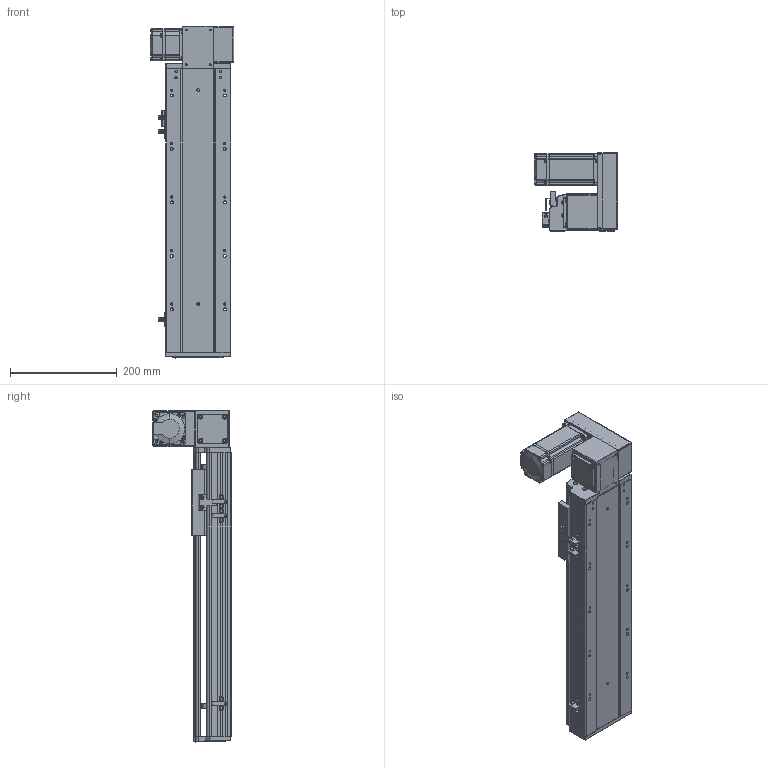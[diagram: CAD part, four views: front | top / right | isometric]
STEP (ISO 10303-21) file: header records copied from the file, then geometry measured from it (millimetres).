
FILE_DESCRIPTION (( 'STEP AP203' ), '1' );
FILE_NAME ('RY120-T-300-UR.SLDASM_300.step', '2021-03-01T05:55:13', ( '盈信电脑' ), ( '东莞市道滘镇水果街19号' ), 'SwSTEP 2.0', 'SolidWorks 2012', '' );
FILE_SCHEMA (( 'CONFIG_CONTROL_DESIGN' ));
Length unit declared in the file: millimetre
Products named in the file (17): RY120-T肮祭湍揤踡輸2; RY120-T肮祭湍揤踡輸1; RY120-T翋肮祭盓傅釱; RY120外置感应片(140共用）; RY120肮祭湍臏賑輸; 覜茼ん672; RY120綴裔啣; RY120-T-300-UR倰第菁釱; RY120-T-300-UR倰第奻裔啣_300; RY120-T-300-UR.SLDASM_300; RY120-T主同步轮轴承压盖; RY120-T萇儂欶; RY120-T翋肮祭謫裔啣; 滅袉蝶18-10; 15; RY120-T蹟翐M4; RY120-T萇儂假蚾啣
Assembly tree (22 placements, depth 2):
  RY120-T-300-UR.SLDASM_300
    RY120-T-300-UR倰第菁釱
    RY120-T-300-UR倰第奻裔啣_300
    RY120肮祭湍臏賑輸
    RY120綴裔啣
    覜茼ん672  x3
    RY120外置感应片(140共用）
    RY120-T肮祭湍揤踡輸1
    RY120-T肮祭湍揤踡輸2
    RY120-T翋肮祭盓傅釱
    RY120-T萇儂假蚾啣
    滅袉蝶18-10  x2
    RY120-T翋肮祭謫裔啣
    15
    RY120-T蹟翐M4  x4
    RY120-T萇儂欶
    RY120-T主同步轮轴承压盖
Bounding box: 155.5 x 146 x 621 mm (x, y, z)
Volume: 2083702.8 mm3; surface area: 743451.9 mm2
Topology: 23 solids, 23 shells, 2640 faces, 7176 edges, 4624 vertices
Faces by surface type: plane 1392, cylinder 958, cone 201, bspline 89
Entity records: 83293 total; most frequent: CARTESIAN_POINT 20742, ORIENTED_EDGE 12864, DIRECTION 12198, EDGE_CURVE 6432, VERTEX_POINT 4211, VECTOR 4120, LINE 4120, AXIS2_PLACEMENT_3D 4039
